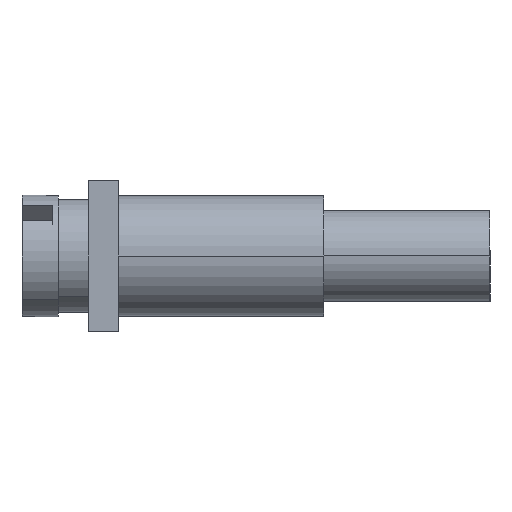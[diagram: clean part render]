
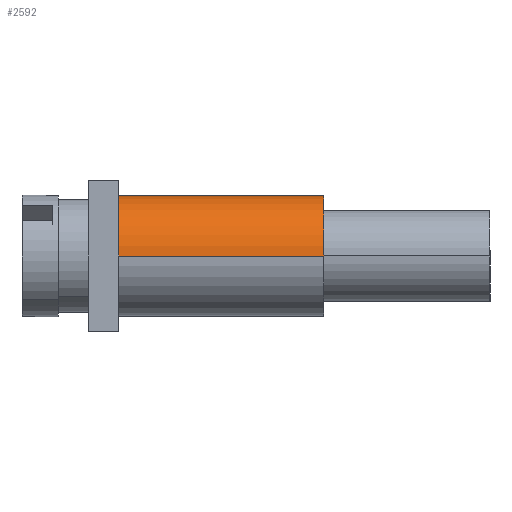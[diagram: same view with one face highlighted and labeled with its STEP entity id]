
A CAD part, left-side view. The second image highlights one B-rep face of the part: STEP entity #2592.
In plain terms, the highlighted cylindrical face has radius 2 mm (diameter 4 mm), a partial arc.
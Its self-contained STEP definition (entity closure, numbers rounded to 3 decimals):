
#1235=CARTESIAN_POINT('',(-2.,0.,0.));
#1236=VERTEX_POINT('',#1235);
#1237=CARTESIAN_POINT('',(2.,0.,0.));
#1238=VERTEX_POINT('',#1237);
#1239=CARTESIAN_POINT('',(0.,0.,0.));
#1240=DIRECTION('',(-1.,0.,0.));
#1241=DIRECTION('',(-0.,1.,0.));
#1242=AXIS2_PLACEMENT_3D('',#1239,#1241,#1240);
#1243=CIRCLE('',#1242,2.);
#1244=EDGE_CURVE('',#1236,#1238,#1243,.T.);
#2530=CARTESIAN_POINT('',(2.,-6.8,0.));
#2531=VERTEX_POINT('',#2530);
#2532=CARTESIAN_POINT('',(-2.,-6.8,0.));
#2533=VERTEX_POINT('',#2532);
#2534=CARTESIAN_POINT('',(0.,-6.8,0.));
#2535=DIRECTION('',(1.,0.,0.));
#2536=DIRECTION('',(0.,-1.,0.));
#2537=AXIS2_PLACEMENT_3D('',#2534,#2536,#2535);
#2538=CIRCLE('',#2537,2.);
#2539=EDGE_CURVE('',#2531,#2533,#2538,.T.);
#2571=CARTESIAN_POINT('',(0.,-8.4,0.));
#2572=DIRECTION('',(1.,0.,0.));
#2573=DIRECTION('',(0.,1.,0.));
#2574=AXIS2_PLACEMENT_3D('',#2571,#2573,#2572);
#2575=CYLINDRICAL_SURFACE('',#2574,2.);
#2576=ORIENTED_EDGE('',*,*,#1244,.F.);
#2577=CARTESIAN_POINT('',(-2.,0.,0.));
#2578=DIRECTION('',(0.,-1.,0.));
#2579=VECTOR('',#2578,6.8);
#2580=LINE('',#2577,#2579);
#2581=EDGE_CURVE('',#1236,#2533,#2580,.T.);
#2582=ORIENTED_EDGE('E240',*,*,#2581,.T.);
#2583=ORIENTED_EDGE('E240',*,*,#2539,.F.);
#2584=CARTESIAN_POINT('',(2.,0.,0.));
#2585=DIRECTION('',(0.,-1.,0.));
#2586=VECTOR('',#2585,6.8);
#2587=LINE('',#2584,#2586);
#2588=EDGE_CURVE('',#1238,#2531,#2587,.T.);
#2589=ORIENTED_EDGE('E241',*,*,#2588,.F.);
#2590=EDGE_LOOP('',(#2576,#2582,#2583,#2589));
#2591=FACE_OUTER_BOUND('',#2590,.T.);
#2592=ADVANCED_FACE('F68',(#2591),#2575,.T.);
